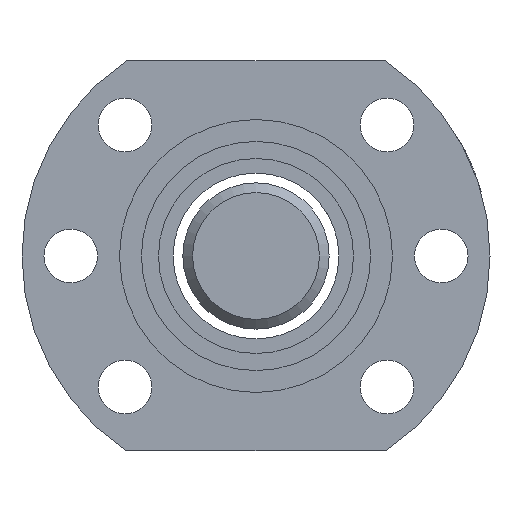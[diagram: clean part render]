
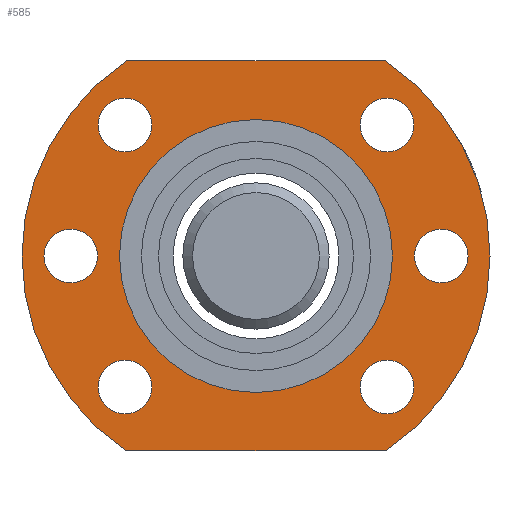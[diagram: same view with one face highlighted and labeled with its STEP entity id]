
A CAD part, left-side view. The second image highlights one B-rep face of the part: STEP entity #585.
In plain terms, the highlighted planar face has unit normal (-1, 0, 0).
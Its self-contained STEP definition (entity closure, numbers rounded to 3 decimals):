
#59=PLANE('',#673);
#80=CIRCLE('',#644,24.);
#86=CIRCLE('',#652,2.75);
#88=CIRCLE('',#655,2.75);
#90=CIRCLE('',#658,2.75);
#92=CIRCLE('',#661,2.75);
#94=CIRCLE('',#664,2.75);
#96=CIRCLE('',#667,2.75);
#97=CIRCLE('',#671,24.);
#99=CIRCLE('',#674,14.);
#158=ORIENTED_EDGE('',*,*,#278,.F.);
#159=ORIENTED_EDGE('',*,*,#248,.T.);
#160=ORIENTED_EDGE('',*,*,#270,.T.);
#161=ORIENTED_EDGE('',*,*,#276,.T.);
#162=ORIENTED_EDGE('',*,*,#273,.T.);
#163=ORIENTED_EDGE('',*,*,#269,.F.);
#164=ORIENTED_EDGE('',*,*,#267,.F.);
#165=ORIENTED_EDGE('',*,*,#259,.T.);
#166=ORIENTED_EDGE('',*,*,#261,.T.);
#167=ORIENTED_EDGE('',*,*,#265,.F.);
#168=ORIENTED_EDGE('',*,*,#263,.T.);
#248=EDGE_CURVE('',#311,#310,#80,.T.);
#259=EDGE_CURVE('',#321,#321,#86,.T.);
#261=EDGE_CURVE('',#323,#323,#88,.T.);
#263=EDGE_CURVE('',#325,#325,#90,.T.);
#265=EDGE_CURVE('',#327,#327,#92,.T.);
#267=EDGE_CURVE('',#329,#329,#94,.T.);
#269=EDGE_CURVE('',#331,#331,#96,.T.);
#270=EDGE_CURVE('',#310,#332,#364,.T.);
#273=EDGE_CURVE('',#334,#311,#367,.T.);
#276=EDGE_CURVE('',#332,#334,#97,.T.);
#278=EDGE_CURVE('',#336,#336,#99,.T.);
#310=VERTEX_POINT('',#916);
#311=VERTEX_POINT('',#918);
#321=VERTEX_POINT('',#959);
#323=VERTEX_POINT('',#964);
#325=VERTEX_POINT('',#969);
#327=VERTEX_POINT('',#974);
#329=VERTEX_POINT('',#979);
#331=VERTEX_POINT('',#984);
#332=VERTEX_POINT('',#987);
#334=VERTEX_POINT('',#993);
#336=VERTEX_POINT('',#1002);
#364=LINE('',#986,#372);
#367=LINE('',#992,#375);
#372=VECTOR('',#786,1000.);
#375=VECTOR('',#791,1000.);
#397=EDGE_LOOP('',(#158));
#398=EDGE_LOOP('',(#159,#160,#161,#162));
#399=EDGE_LOOP('',(#163));
#400=EDGE_LOOP('',(#164));
#401=EDGE_LOOP('',(#165));
#402=EDGE_LOOP('',(#166));
#403=EDGE_LOOP('',(#167));
#404=EDGE_LOOP('',(#168));
#484=FACE_BOUND('',#397,.T.);
#485=FACE_BOUND('',#398,.T.);
#486=FACE_BOUND('',#399,.T.);
#487=FACE_BOUND('',#400,.T.);
#488=FACE_BOUND('',#401,.T.);
#489=FACE_BOUND('',#402,.T.);
#490=FACE_BOUND('',#403,.T.);
#491=FACE_BOUND('',#404,.T.);
#585=ADVANCED_FACE('',(#484,#485,#486,#487,#488,#489,#490,#491),#59,.T.);
#644=AXIS2_PLACEMENT_3D('',#917,#735,#736);
#652=AXIS2_PLACEMENT_3D('',#958,#752,#753);
#655=AXIS2_PLACEMENT_3D('',#963,#758,#759);
#658=AXIS2_PLACEMENT_3D('',#968,#764,#765);
#661=AXIS2_PLACEMENT_3D('',#973,#770,#771);
#664=AXIS2_PLACEMENT_3D('',#978,#776,#777);
#667=AXIS2_PLACEMENT_3D('',#983,#782,#783);
#671=AXIS2_PLACEMENT_3D('',#998,#796,#797);
#673=AXIS2_PLACEMENT_3D('',#1000,#800,#801);
#674=AXIS2_PLACEMENT_3D('',#1001,#802,#803);
#735=DIRECTION('',(-1.,0.,0.));
#736=DIRECTION('',(0.,0.,-1.));
#752=DIRECTION('',(1.,0.,0.));
#753=DIRECTION('',(0.,0.,1.));
#758=DIRECTION('',(1.,0.,0.));
#759=DIRECTION('',(0.,0.,1.));
#764=DIRECTION('',(1.,0.,0.));
#765=DIRECTION('',(0.,0.,1.));
#770=DIRECTION('',(-1.,0.,0.));
#771=DIRECTION('',(0.,0.,1.));
#776=DIRECTION('',(-1.,0.,0.));
#777=DIRECTION('',(0.,0.,1.));
#782=DIRECTION('',(-1.,0.,0.));
#783=DIRECTION('',(0.,0.,1.));
#786=DIRECTION('',(0.,1.,0.));
#791=DIRECTION('',(0.,-1.,0.));
#796=DIRECTION('',(-1.,0.,0.));
#797=DIRECTION('',(0.,0.,-1.));
#800=DIRECTION('',(-1.,0.,0.));
#801=DIRECTION('',(0.,0.,1.));
#802=DIRECTION('',(-1.,0.,0.));
#803=DIRECTION('',(0.,0.,-1.));
#916=CARTESIAN_POINT('',(0.351,-49.205,20.));
#917=CARTESIAN_POINT('',(0.351,-35.938,0.));
#918=CARTESIAN_POINT('',(0.351,-49.205,-20.));
#958=CARTESIAN_POINT('',(0.351,-49.373,13.435));
#959=CARTESIAN_POINT('',(0.351,-49.373,16.185));
#963=CARTESIAN_POINT('',(0.351,-54.938,0.));
#964=CARTESIAN_POINT('',(0.351,-54.938,2.75));
#968=CARTESIAN_POINT('',(0.351,-49.373,-13.435));
#969=CARTESIAN_POINT('',(0.351,-49.373,-10.685));
#973=CARTESIAN_POINT('',(0.351,-22.503,-13.435));
#974=CARTESIAN_POINT('',(0.351,-22.503,-10.685));
#978=CARTESIAN_POINT('',(0.351,-22.503,13.435));
#979=CARTESIAN_POINT('',(0.351,-22.503,16.185));
#983=CARTESIAN_POINT('',(0.351,-16.938,0.));
#984=CARTESIAN_POINT('',(0.351,-16.938,2.75));
#986=CARTESIAN_POINT('',(0.351,-49.205,20.));
#987=CARTESIAN_POINT('',(0.351,-22.672,20.));
#992=CARTESIAN_POINT('',(0.351,-22.672,-20.));
#993=CARTESIAN_POINT('',(0.351,-22.672,-20.));
#998=CARTESIAN_POINT('',(0.351,-35.938,0.));
#1000=CARTESIAN_POINT('',(0.351,-35.938,0.));
#1001=CARTESIAN_POINT('',(0.351,-35.938,0.));
#1002=CARTESIAN_POINT('',(0.351,-35.938,-14.));
